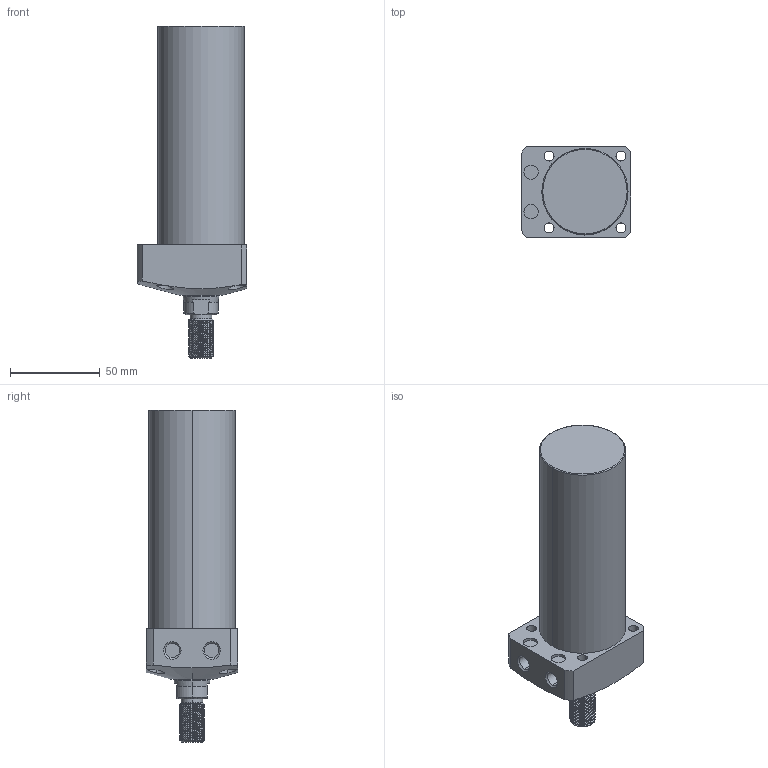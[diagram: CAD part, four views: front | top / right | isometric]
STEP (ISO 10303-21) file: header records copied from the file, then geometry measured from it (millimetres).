
FILE_DESCRIPTION (( 'STEP AP203' ), '1' );
FILE_NAME ('CLL-048CT-095.STEP', '2020-01-08T10:10:10', ( '' ), ( '' ), 'SwSTEP 2.0', 'SolidWorks 2015', '' );
FILE_SCHEMA (( 'CONFIG_CONTROL_DESIGN' ));
Length unit declared in the file: millimetre
Products named in the file (1): CLL-048CT-095
Bounding box: 61 x 51 x 185 mm (x, y, z)
Volume: 299777.1 mm3; surface area: 34412.9 mm2
Topology: 1 solids, 1 shells, 120 faces, 306 edges, 199 vertices
Faces by surface type: cylinder 77, plane 23, cone 16, torus 2, bspline 2
Entity records: 6428 total; most frequent: CARTESIAN_POINT 3667, ORIENTED_EDGE 612, DIRECTION 514, EDGE_CURVE 306, AXIS2_PLACEMENT_3D 204, VERTEX_POINT 199, EDGE_LOOP 139, FACE_OUTER_BOUND 120
